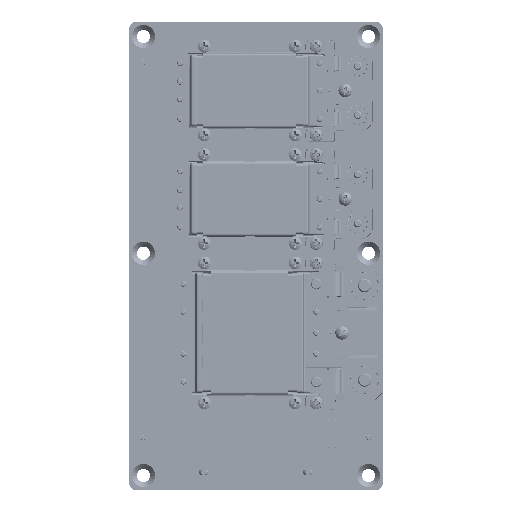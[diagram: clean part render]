
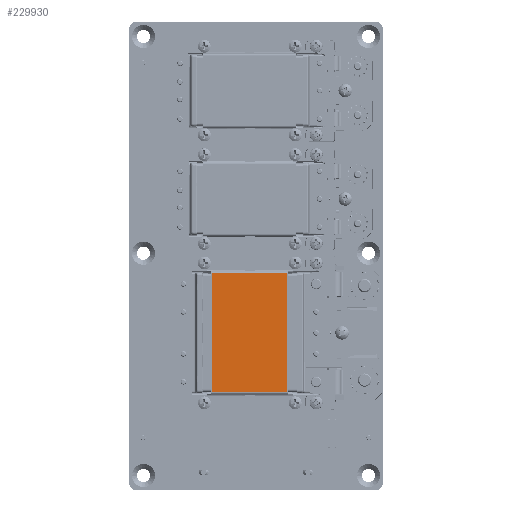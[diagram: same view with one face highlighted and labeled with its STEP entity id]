
A CAD part, top view. The second image highlights one B-rep face of the part: STEP entity #229930.
In plain terms, the highlighted planar face has unit normal (0, 0, 1).
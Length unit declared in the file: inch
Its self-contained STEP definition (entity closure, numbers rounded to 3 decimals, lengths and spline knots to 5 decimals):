
#108864 = VECTOR ( 'NONE', #138130, 39.37008 ) ;
#108867 = VECTOR ( 'NONE', #138132, 39.37008 ) ;
#108871 = VECTOR ( 'NONE', #138134, 39.37008 ) ;
#108874 = VECTOR ( 'NONE', #138136, 39.37008 ) ;
#115960 = LINE ( 'NONE', #138129, #108864 ) ;
#115962 = LINE ( 'NONE', #138131, #108867 ) ;
#115964 = LINE ( 'NONE', #138133, #108871 ) ;
#115966 = LINE ( 'NONE', #138135, #108874 ) ;
#116580 = AXIS2_PLACEMENT_3D ( 'NONE', #131593, #131595, #131596 ) ;
#129460 = FACE_OUTER_BOUND ( 'NONE', #257927, .T. ) ;
#131591 = PLANE ( 'NONE',  #116580 ) ;
#131593 = CARTESIAN_POINT ( 'NONE',  ( -2.40395, -1.88533, 0.72245 ) ) ;
#131595 = DIRECTION ( 'NONE',  ( 0., 0., 1. ) ) ;
#131596 = DIRECTION ( 'NONE',  ( 1., 0., 0. ) ) ;
#138129 = CARTESIAN_POINT ( 'NONE',  ( -1.36343, -1.95505, 0.72245 ) ) ;
#138130 = DIRECTION ( 'NONE',  ( 0., -1., 0. ) ) ;
#138131 = CARTESIAN_POINT ( 'NONE',  ( -2.45169, -1.95629, 0.72245 ) ) ;
#138132 = DIRECTION ( 'NONE',  ( -1., 0., 0. ) ) ;
#138133 = CARTESIAN_POINT ( 'NONE',  ( -1.34839, -0.25119, 0.72245 ) ) ;
#138134 = DIRECTION ( 'NONE',  ( 1., 0., 0. ) ) ;
#138135 = CARTESIAN_POINT ( 'NONE',  ( -2.43664, -0.25244, 0.72245 ) ) ;
#138136 = DIRECTION ( 'NONE',  ( 0., 1., 0. ) ) ;
#229930 = ADVANCED_FACE ( 'NONE', ( #129460 ), #131591, .T. ) ;
#257927 = EDGE_LOOP ( 'NONE', ( #292300, #292304, #292303, #292305 ) ) ;
#282202 = EDGE_CURVE ( 'NONE', #335526, #335524, #115960, .T. ) ;
#282203 = EDGE_CURVE ( 'NONE', #335524, #335525, #115962, .T. ) ;
#282204 = EDGE_CURVE ( 'NONE', #335527, #335526, #115964, .T. ) ;
#282206 = EDGE_CURVE ( 'NONE', #335525, #335527, #115966, .T. ) ;
#292300 = ORIENTED_EDGE ( 'NONE', *, *, #282203, .F. ) ;
#292303 = ORIENTED_EDGE ( 'NONE', *, *, #282204, .F. ) ;
#292304 = ORIENTED_EDGE ( 'NONE', *, *, #282202, .F. ) ;
#292305 = ORIENTED_EDGE ( 'NONE', *, *, #282206, .F. ) ;
#334871 = CARTESIAN_POINT ( 'NONE',  ( -1.36343, -1.95629, 0.72245 ) ) ;
#334872 = CARTESIAN_POINT ( 'NONE',  ( -2.43664, -1.95629, 0.72245 ) ) ;
#334873 = CARTESIAN_POINT ( 'NONE',  ( -1.36343, -0.25119, 0.72245 ) ) ;
#334874 = CARTESIAN_POINT ( 'NONE',  ( -2.43664, -0.25119, 0.72245 ) ) ;
#335524 = VERTEX_POINT ( 'NONE', #334871 ) ;
#335525 = VERTEX_POINT ( 'NONE', #334872 ) ;
#335526 = VERTEX_POINT ( 'NONE', #334873 ) ;
#335527 = VERTEX_POINT ( 'NONE', #334874 ) ;
